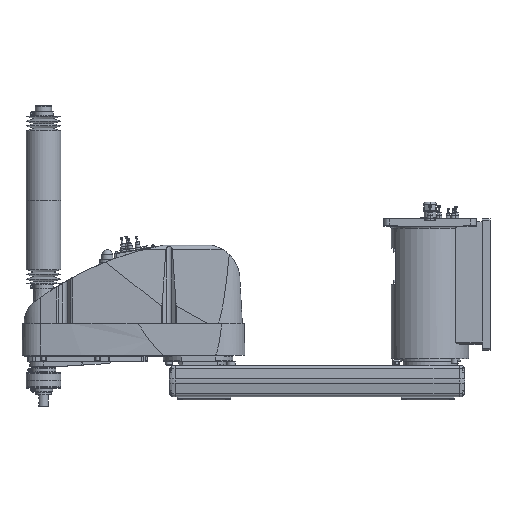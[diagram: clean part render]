
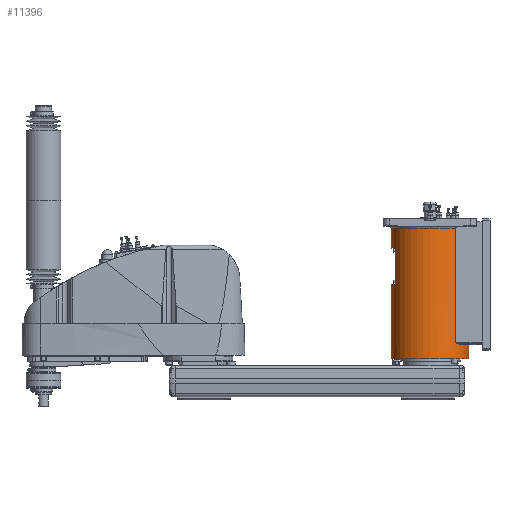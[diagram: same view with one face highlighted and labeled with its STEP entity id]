
A CAD part, top view. The second image highlights one B-rep face of the part: STEP entity #11396.
In plain terms, the highlighted cylindrical face has radius 100 mm (diameter 200 mm), a partial arc.
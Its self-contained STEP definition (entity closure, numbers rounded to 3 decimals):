
#11396 = ADVANCED_FACE( '', ( #32739 ), #32740, .T. );
#12000 = VERTEX_POINT( '', #33434 );
#12088 = EDGE_CURVE( '', #30442, #22908, #33527, .T. );
#13548 = VERTEX_POINT( '', #35165 );
#13662 = EDGE_CURVE( '', #21138, #19320, #35289, .T. );
#14192 = VERTEX_POINT( '', #35868 );
#14836 = EDGE_CURVE( '', #23302, #13548, #36589, .T. );
#15244 = EDGE_CURVE( '', #23336, #12000, #37049, .T. );
#15718 = EDGE_CURVE( '', #19320, #30442, #37576, .T. );
#16964 = VERTEX_POINT( '', #38981 );
#19030 = EDGE_CURVE( '', #21926, #22908, #41314, .T. );
#19294 = VERTEX_POINT( '', #41604 );
#19320 = VERTEX_POINT( '', #41636 );
#20914 = VERTEX_POINT( '', #43398 );
#21138 = VERTEX_POINT( '', #43647 );
#21632 = EDGE_CURVE( '', #16964, #21138, #44188, .T. );
#21640 = EDGE_CURVE( '', #22148, #31040, #44198, .T. );
#21926 = VERTEX_POINT( '', #44534 );
#22148 = VERTEX_POINT( '', #44778 );
#22908 = VERTEX_POINT( '', #45620 );
#23302 = VERTEX_POINT( '', #46043 );
#23336 = VERTEX_POINT( '', #46082 );
#23928 = EDGE_CURVE( '', #23336, #21926, #46746, .T. );
#25958 = VERTEX_POINT( '', #49010 );
#26840 = EDGE_CURVE( '', #13548, #25958, #50007, .T. );
#27570 = EDGE_CURVE( '', #25958, #22148, #50812, .T. );
#29548 = EDGE_CURVE( '', #14192, #16964, #52998, .T. );
#29968 = EDGE_CURVE( '', #20914, #14192, #53461, .T. );
#30004 = EDGE_CURVE( '', #12000, #19294, #53499, .T. );
#30442 = VERTEX_POINT( '', #53988 );
#30994 = EDGE_CURVE( '', #31040, #20914, #54592, .T. );
#31040 = VERTEX_POINT( '', #54642 );
#31068 = EDGE_CURVE( '', #19294, #23302, #54672, .T. );
#32739 = FACE_OUTER_BOUND( '', #56743, .T. );
#32740 = CYLINDRICAL_SURFACE( '', #56744, 100. );
#33434 = CARTESIAN_POINT( '', ( -100., 311.3, 0. ) );
#33527 = LINE( '', #57859, #57860 );
#35165 = CARTESIAN_POINT( '', ( -100., 218.3, 0. ) );
#35289 = CIRCLE( '', #60530, 100. );
#35868 = CARTESIAN_POINT( '', ( 89.303, 62., 45. ) );
#36589 = CIRCLE( '', #62373, 100. );
#37049 = LINE( '', #63019, #63020 );
#37576 = B_SPLINE_CURVE_WITH_KNOTS( '', 3, ( #63786, #63787, #63788, #63789, #63790, #63791, #63792, #63793, #63794, #63795, #63796, #63797, #63798, #63799, #63800, #63801, #63802, #63803 ), .UNSPECIFIED., .F., .F., ( 4, 2, 2, 2, 2, 2, 2, 2, 4 ), ( 7.241, 8.361, 9.482, 10.602, 11.722, 12.472, 13.222, 13.972, 14.722 ), .UNSPECIFIED. );
#38981 = CARTESIAN_POINT( '', ( 75.993, 62., 65. ) );
#41314 = CIRCLE( '', #69155, 100. );
#41604 = CARTESIAN_POINT( '', ( -88., 311.3, 47.497 ) );
#41636 = CARTESIAN_POINT( '', ( 70.42, 64., 71. ) );
#43398 = CARTESIAN_POINT( '', ( 89.303, 64., 45. ) );
#43647 = CARTESIAN_POINT( '', ( 75.993, 64., 65. ) );
#44188 = LINE( '', #73366, #73367 );
#44198 = LINE( '', #73378, #73379 );
#44534 = CARTESIAN_POINT( '', ( 0., 363., 100. ) );
#44778 = CARTESIAN_POINT( '', ( 100., 25., 0. ) );
#45620 = CARTESIAN_POINT( '', ( 66.144, 363., 75. ) );
#46043 = CARTESIAN_POINT( '', ( -88., 218.3, 47.497 ) );
#46082 = CARTESIAN_POINT( '', ( -100., 363., 0. ) );
#46746 = CIRCLE( '', #77079, 100. );
#49010 = CARTESIAN_POINT( '', ( -100., 25., 0. ) );
#50007 = LINE( '', #81731, #81732 );
#50812 = CIRCLE( '', #82912, 100. );
#52998 = CIRCLE( '', #86142, 100. );
#53461 = LINE( '', #86820, #86821 );
#53499 = CIRCLE( '', #86874, 100. );
#53988 = CARTESIAN_POINT( '', ( 66.144, 68., 75. ) );
#54592 = CIRCLE( '', #88475, 100. );
#54642 = CARTESIAN_POINT( '', ( 100., 64., 0. ) );
#54672 = LINE( '', #88587, #88588 );
#56743 = EDGE_LOOP( '', ( #90956, #90957, #90958, #90959, #90960, #90961, #90962, #90963, #90964, #90965, #90966, #90967, #90968, #90969, #90970, #90971 ) );
#56744 = AXIS2_PLACEMENT_3D( '', #90972, #90973, #90974 );
#57859 = CARTESIAN_POINT( '', ( 66.144, 215.5, 75. ) );
#57860 = VECTOR( '', #91940, 1. );
#60530 = AXIS2_PLACEMENT_3D( '', #93974, #93975, #93976 );
#62373 = AXIS2_PLACEMENT_3D( '', #95450, #95451, #95452 );
#63019 = CARTESIAN_POINT( '', ( -100., 194., 0. ) );
#63020 = VECTOR( '', #96046, 1. );
#63786 = CARTESIAN_POINT( '', ( 70.42, 64., 71. ) );
#63787 = CARTESIAN_POINT( '', ( 70.155, 64., 71.263 ) );
#63788 = CARTESIAN_POINT( '', ( 69.877, 64.026, 71.535 ) );
#63789 = CARTESIAN_POINT( '', ( 69.316, 64.139, 72.08 ) );
#63790 = CARTESIAN_POINT( '', ( 69.031, 64.224, 72.352 ) );
#63791 = CARTESIAN_POINT( '', ( 68.475, 64.457, 72.879 ) );
#63792 = CARTESIAN_POINT( '', ( 68.203, 64.604, 73.134 ) );
#63793 = CARTESIAN_POINT( '', ( 67.688, 64.954, 73.61 ) );
#63794 = CARTESIAN_POINT( '', ( 67.446, 65.158, 73.831 ) );
#63795 = CARTESIAN_POINT( '', ( 67.082, 65.542, 74.162 ) );
#63796 = CARTESIAN_POINT( '', ( 66.938, 65.716, 74.292 ) );
#63797 = CARTESIAN_POINT( '', ( 66.674, 66.103, 74.529 ) );
#63798 = CARTESIAN_POINT( '', ( 66.555, 66.315, 74.636 ) );
#63799 = CARTESIAN_POINT( '', ( 66.356, 66.766, 74.812 ) );
#63800 = CARTESIAN_POINT( '', ( 66.277, 67.005, 74.882 ) );
#63801 = CARTESIAN_POINT( '', ( 66.171, 67.497, 74.976 ) );
#63802 = CARTESIAN_POINT( '', ( 66.144, 67.75, 75. ) );
#63803 = CARTESIAN_POINT( '', ( 66.144, 68., 75. ) );
#69155 = AXIS2_PLACEMENT_3D( '', #101214, #101215, #101216 );
#73366 = CARTESIAN_POINT( '', ( 75.993, 63., 65. ) );
#73367 = VECTOR( '', #104430, 1. );
#73378 = CARTESIAN_POINT( '', ( 100., 194., 0. ) );
#73379 = VECTOR( '', #104447, 1. );
#77079 = AXIS2_PLACEMENT_3D( '', #107320, #107321, #107322 );
#81731 = CARTESIAN_POINT( '', ( -100., 194., 0. ) );
#81732 = VECTOR( '', #111209, 1. );
#82912 = AXIS2_PLACEMENT_3D( '', #112108, #112109, #112110 );
#86142 = AXIS2_PLACEMENT_3D( '', #114503, #114504, #114505 );
#86820 = CARTESIAN_POINT( '', ( 89.303, 63., 45. ) );
#86821 = VECTOR( '', #114985, 1. );
#86874 = AXIS2_PLACEMENT_3D( '', #115014, #115015, #115016 );
#88475 = AXIS2_PLACEMENT_3D( '', #116215, #116216, #116217 );
#88587 = CARTESIAN_POINT( '', ( -88., 264.8, 47.497 ) );
#88588 = VECTOR( '', #116308, 1. );
#90956 = ORIENTED_EDGE( '', *, *, #21640, .T. );
#90957 = ORIENTED_EDGE( '', *, *, #30994, .T. );
#90958 = ORIENTED_EDGE( '', *, *, #29968, .T. );
#90959 = ORIENTED_EDGE( '', *, *, #29548, .T. );
#90960 = ORIENTED_EDGE( '', *, *, #21632, .T. );
#90961 = ORIENTED_EDGE( '', *, *, #13662, .T. );
#90962 = ORIENTED_EDGE( '', *, *, #15718, .T. );
#90963 = ORIENTED_EDGE( '', *, *, #12088, .T. );
#90964 = ORIENTED_EDGE( '', *, *, #19030, .F. );
#90965 = ORIENTED_EDGE( '', *, *, #23928, .F. );
#90966 = ORIENTED_EDGE( '', *, *, #15244, .T. );
#90967 = ORIENTED_EDGE( '', *, *, #30004, .T. );
#90968 = ORIENTED_EDGE( '', *, *, #31068, .T. );
#90969 = ORIENTED_EDGE( '', *, *, #14836, .T. );
#90970 = ORIENTED_EDGE( '', *, *, #26840, .T. );
#90971 = ORIENTED_EDGE( '', *, *, #27570, .T. );
#90972 = CARTESIAN_POINT( '', ( 0., 194., 0. ) );
#90973 = DIRECTION( '', ( 0., -1., 0. ) );
#90974 = DIRECTION( '', ( 1., 0., 0. ) );
#91940 = DIRECTION( '', ( 0., 1., 0. ) );
#93974 = CARTESIAN_POINT( '', ( 0., 64., 0. ) );
#93975 = DIRECTION( '', ( 0., -1., 0. ) );
#93976 = DIRECTION( '', ( 1., 0., 0. ) );
#95450 = CARTESIAN_POINT( '', ( 0., 218.3, 0. ) );
#95451 = DIRECTION( '', ( 0., -1., 0. ) );
#95452 = DIRECTION( '', ( 1., 0., 0. ) );
#96046 = DIRECTION( '', ( 0., -1., 0. ) );
#101214 = CARTESIAN_POINT( '', ( 0., 363., 0. ) );
#101215 = DIRECTION( '', ( 0., 1., 0. ) );
#101216 = DIRECTION( '', ( 1., 0., 0. ) );
#104430 = DIRECTION( '', ( 0., 1., 0. ) );
#104447 = DIRECTION( '', ( 0., 1., 0. ) );
#107320 = CARTESIAN_POINT( '', ( 0., 363., 0. ) );
#107321 = DIRECTION( '', ( 0., 1., 0. ) );
#107322 = DIRECTION( '', ( 1., 0., 0. ) );
#111209 = DIRECTION( '', ( 0., -1., 0. ) );
#112108 = CARTESIAN_POINT( '', ( 0., 25., 0. ) );
#112109 = DIRECTION( '', ( 0., 1., 0. ) );
#112110 = DIRECTION( '', ( 1., 0., 0. ) );
#114503 = CARTESIAN_POINT( '', ( 0., 62., 0. ) );
#114504 = DIRECTION( '', ( 0., -1., 0. ) );
#114505 = DIRECTION( '', ( 1., 0., 0. ) );
#114985 = DIRECTION( '', ( 0., -1., 0. ) );
#115014 = CARTESIAN_POINT( '', ( 0., 311.3, 0. ) );
#115015 = DIRECTION( '', ( 0., 1., 0. ) );
#115016 = DIRECTION( '', ( 1., 0., 0. ) );
#116215 = CARTESIAN_POINT( '', ( 0., 64., 0. ) );
#116216 = DIRECTION( '', ( 0., -1., 0. ) );
#116217 = DIRECTION( '', ( 1., 0., 0. ) );
#116308 = DIRECTION( '', ( 0., -1., 0. ) );
